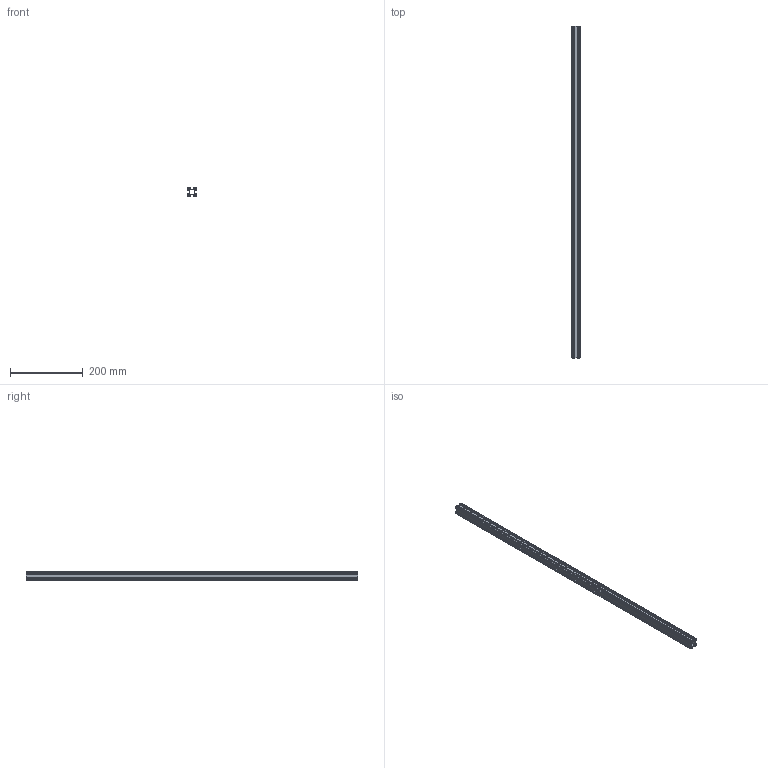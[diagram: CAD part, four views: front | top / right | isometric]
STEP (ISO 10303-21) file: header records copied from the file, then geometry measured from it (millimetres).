
FILE_DESCRIPTION (( 'STEP AP203' ), '1' );
FILE_NAME ('1109-0016-0912.STEP', '2017-05-16T18:14:35', ( '' ), ( '' ), 'SwSTEP 2.0', 'SolidWorks 2016', '' );
FILE_SCHEMA (( 'CONFIG_CONTROL_DESIGN' ));
Length unit declared in the file: millimetre
Products named in the file (1): 1109-0016-0912
Bounding box: 24 x 912 x 24 mm (x, y, z)
Volume: 180442.5 mm3; surface area: 224236.2 mm2
Topology: 1 solids, 1 shells, 807 faces, 2405 edges, 1600 vertices
Faces by surface type: cylinder 683, plane 88, cone 20, bspline 16
Entity records: 53534 total; most frequent: CARTESIAN_POINT 35507, ORIENTED_EDGE 4810, DIRECTION 2779, EDGE_CURVE 2405, VERTEX_POINT 1600, AXIS2_PLACEMENT_3D 928, VECTOR 923, LINE 923
